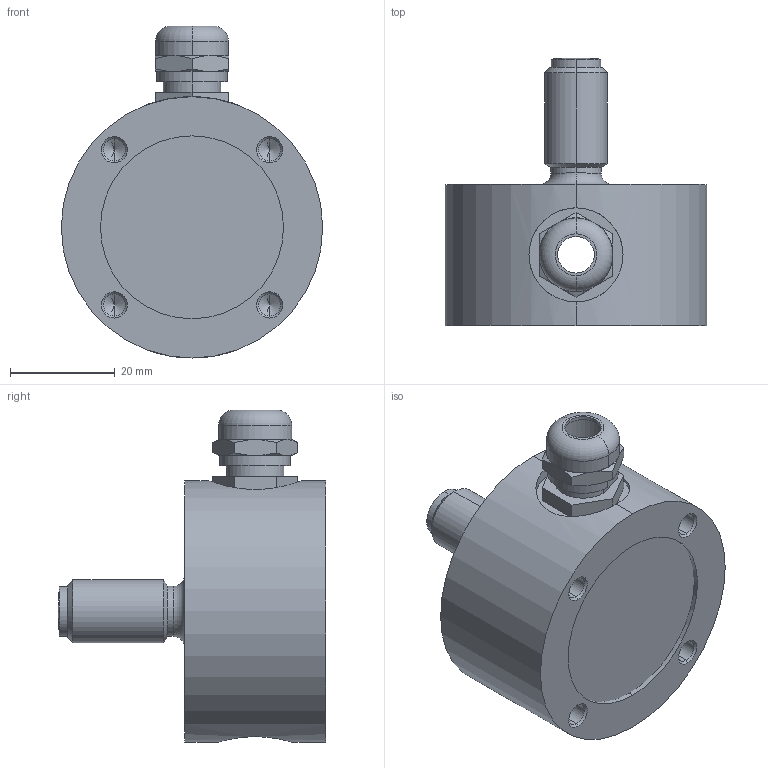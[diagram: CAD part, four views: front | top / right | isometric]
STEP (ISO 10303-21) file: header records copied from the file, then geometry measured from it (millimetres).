
FILE_DESCRIPTION (( 'STEP AP203' ), '1' );
FILE_NAME ('TU-K1C.STEP', '2013-06-05T16:03:08', ( 'User' ), ( '' ), 'SwSTEP 2.0', 'SolidWorks 2013', '' );
FILE_SCHEMA (( 'CONFIG_CONTROL_DESIGN' ));
Length unit declared in the file: millimetre
Products named in the file (4): TU-K1C; SOS866X_Revisione 5; DIS016X; PRE700X_PRESSACAVO PG7 ART.50007
Assembly tree (3 placements, depth 2):
  TU-K1C
    SOS866X_Revisione 5
    DIS016X
    PRE700X_PRESSACAVO PG7 ART.50007
Bounding box: 50 x 51.19 x 63.52 mm (x, y, z)
Volume: 44749.8 mm3; surface area: 16167.8 mm2
Topology: 3 solids, 3 shells, 119 faces, 274 edges, 165 vertices
Faces by surface type: cylinder 40, cone 36, plane 33, torus 8, sphere 2
Entity records: 3960 total; most frequent: CARTESIAN_POINT 848, DIRECTION 610, ORIENTED_EDGE 532, EDGE_CURVE 266, AXIS2_PLACEMENT_3D 251, VERTEX_POINT 165, EDGE_LOOP 135, CIRCLE 126
